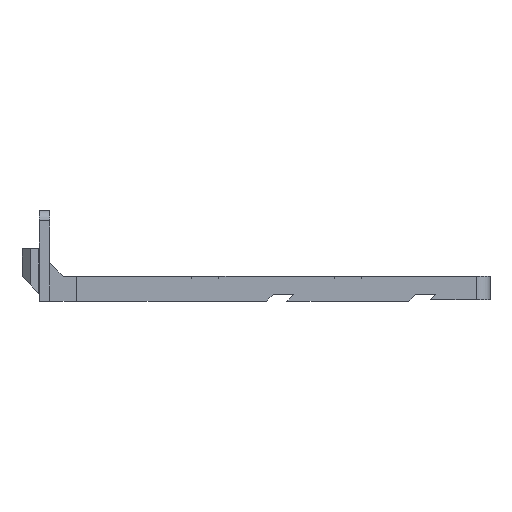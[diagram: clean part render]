
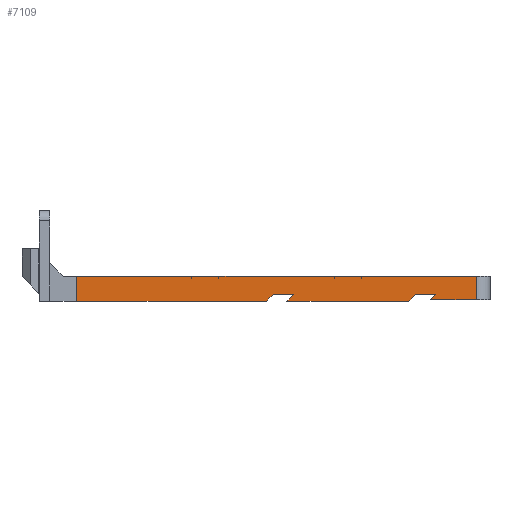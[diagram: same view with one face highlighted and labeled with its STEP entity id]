
A CAD part, front view. The second image highlights one B-rep face of the part: STEP entity #7109.
In plain terms, the highlighted planar face has unit normal (0, -1, 0).
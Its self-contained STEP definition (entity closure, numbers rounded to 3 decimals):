
#309=PLANE('',#7822);
#747=FACE_OUTER_BOUND('',#1203,.T.);
#1203=EDGE_LOOP('',(#6202,#6203,#6204,#6205,#6206,#6207,#6208,#6209,#6210,
#6211,#6212,#6213,#6214,#6215,#6216,#6217,#6218,#6219,#6220,#6221));
#1282=LINE('',#10149,#2014);
#1287=LINE('',#10166,#2019);
#1291=LINE('',#10173,#2023);
#1294=LINE('',#10179,#2026);
#1297=LINE('',#10189,#2029);
#1298=LINE('',#10194,#2030);
#1300=LINE('',#10203,#2032);
#1449=LINE('',#10633,#2181);
#1459=LINE('',#10656,#2191);
#1496=LINE('',#10742,#2228);
#1499=LINE('',#10747,#2231);
#1501=LINE('',#10751,#2233);
#1502=LINE('',#10753,#2234);
#1503=LINE('',#10759,#2235);
#1645=LINE('',#11180,#2377);
#1707=LINE('',#11339,#2439);
#1711=LINE('',#11358,#2443);
#1848=LINE('',#11760,#2580);
#1858=LINE('',#11780,#2590);
#1859=LINE('',#11782,#2591);
#2014=VECTOR('',#7944,10.);
#2019=VECTOR('',#7957,10.);
#2023=VECTOR('',#7963,10.);
#2026=VECTOR('',#7968,10.);
#2029=VECTOR('',#7977,10.);
#2030=VECTOR('',#7982,10.);
#2032=VECTOR('',#7994,10.);
#2181=VECTOR('',#8465,10.);
#2191=VECTOR('',#8489,10.);
#2228=VECTOR('',#8580,10.);
#2231=VECTOR('',#8585,10.);
#2233=VECTOR('',#8589,10.);
#2234=VECTOR('',#8592,10.);
#2235=VECTOR('',#8597,10.);
#2377=VECTOR('',#9071,10.);
#2439=VECTOR('',#9247,10.);
#2443=VECTOR('',#9273,10.);
#2580=VECTOR('',#9732,10.);
#2590=VECTOR('',#9762,10.);
#2591=VECTOR('',#9765,10.);
#3023=VERTEX_POINT('',#10142);
#3026=VERTEX_POINT('',#10147);
#3033=VERTEX_POINT('',#10163);
#3034=VERTEX_POINT('',#10165);
#3036=VERTEX_POINT('',#10171);
#3038=VERTEX_POINT('',#10177);
#3042=VERTEX_POINT('',#10187);
#3043=VERTEX_POINT('',#10191);
#3044=VERTEX_POINT('',#10193);
#3166=VERTEX_POINT('',#10631);
#3193=VERTEX_POINT('',#10739);
#3194=VERTEX_POINT('',#10741);
#3195=VERTEX_POINT('',#10745);
#3196=VERTEX_POINT('',#10749);
#3198=VERTEX_POINT('',#10756);
#3199=VERTEX_POINT('',#10758);
#3347=VERTEX_POINT('',#11321);
#3352=VERTEX_POINT('',#11337);
#3356=VERTEX_POINT('',#11356);
#3460=VERTEX_POINT('',#11758);
#3586=EDGE_CURVE('',#3026,#3023,#1282,.T.);
#3593=EDGE_CURVE('',#3034,#3033,#1287,.T.);
#3597=EDGE_CURVE('',#3033,#3036,#1291,.T.);
#3600=EDGE_CURVE('',#3036,#3038,#1294,.T.);
#3605=EDGE_CURVE('',#3042,#3038,#1297,.T.);
#3607=EDGE_CURVE('',#3044,#3043,#1298,.T.);
#3612=EDGE_CURVE('',#3023,#3043,#1300,.T.);
#3827=EDGE_CURVE('',#3166,#3042,#1449,.T.);
#3839=EDGE_CURVE('',#3166,#3044,#1459,.F.);
#3882=EDGE_CURVE('',#3194,#3193,#1496,.T.);
#3885=EDGE_CURVE('',#3193,#3195,#1499,.T.);
#3887=EDGE_CURVE('',#3195,#3196,#1501,.T.);
#3888=EDGE_CURVE('',#3034,#3196,#1502,.T.);
#3890=EDGE_CURVE('',#3199,#3198,#1503,.T.);
#4101=EDGE_CURVE('',#3026,#3199,#1645,.F.);
#4181=EDGE_CURVE('',#3347,#3352,#1707,.F.);
#4191=EDGE_CURVE('',#3352,#3356,#1711,.T.);
#4392=EDGE_CURVE('',#3347,#3460,#1848,.T.);
#4402=EDGE_CURVE('',#3460,#3198,#1858,.T.);
#4403=EDGE_CURVE('',#3194,#3356,#1859,.T.);
#6202=ORIENTED_EDGE('',*,*,#4402,.F.);
#6203=ORIENTED_EDGE('',*,*,#4392,.F.);
#6204=ORIENTED_EDGE('',*,*,#4181,.T.);
#6205=ORIENTED_EDGE('',*,*,#4191,.T.);
#6206=ORIENTED_EDGE('',*,*,#4403,.F.);
#6207=ORIENTED_EDGE('',*,*,#3882,.T.);
#6208=ORIENTED_EDGE('',*,*,#3885,.T.);
#6209=ORIENTED_EDGE('',*,*,#3887,.T.);
#6210=ORIENTED_EDGE('',*,*,#3888,.F.);
#6211=ORIENTED_EDGE('',*,*,#3593,.T.);
#6212=ORIENTED_EDGE('',*,*,#3597,.T.);
#6213=ORIENTED_EDGE('',*,*,#3600,.T.);
#6214=ORIENTED_EDGE('',*,*,#3605,.F.);
#6215=ORIENTED_EDGE('',*,*,#3827,.F.);
#6216=ORIENTED_EDGE('',*,*,#3839,.T.);
#6217=ORIENTED_EDGE('',*,*,#3607,.T.);
#6218=ORIENTED_EDGE('',*,*,#3612,.F.);
#6219=ORIENTED_EDGE('',*,*,#3586,.F.);
#6220=ORIENTED_EDGE('',*,*,#4101,.T.);
#6221=ORIENTED_EDGE('',*,*,#3890,.T.);
#7109=ADVANCED_FACE('',(#747),#309,.T.);
#7822=AXIS2_PLACEMENT_3D('',#11781,#9763,#9764);
#7944=DIRECTION('',(0.,0.,-1.));
#7957=DIRECTION('',(0.707,0.,0.707));
#7963=DIRECTION('',(1.,0.,0.));
#7968=DIRECTION('',(-0.707,0.,-0.707));
#7977=DIRECTION('',(-1.,0.,0.));
#7982=DIRECTION('',(0.,0.,-1.));
#7994=DIRECTION('',(1.,0.,0.));
#8465=DIRECTION('',(0.,0.,-1.));
#8489=DIRECTION('',(1.,0.,0.));
#8580=DIRECTION('',(0.707,0.,0.707));
#8585=DIRECTION('',(1.,0.,0.));
#8589=DIRECTION('',(-0.707,0.,-0.707));
#8592=DIRECTION('',(-1.,0.,0.));
#8597=DIRECTION('',(0.,0.,-1.));
#9071=DIRECTION('',(1.,0.,0.));
#9247=DIRECTION('',(1.,0.,0.));
#9273=DIRECTION('',(0.,0.,-1.));
#9732=DIRECTION('',(0.,0.,-1.));
#9762=DIRECTION('',(1.,0.,0.));
#9763=DIRECTION('center_axis',(0.,-1.,0.));
#9764=DIRECTION('ref_axis',(1.,0.,0.));
#9765=DIRECTION('',(-1.,0.,0.));
#10142=CARTESIAN_POINT('',(183.15,-21.,-107.078));
#10147=CARTESIAN_POINT('',(183.15,-21.,-107.078));
#10149=CARTESIAN_POINT('',(183.15,-21.,-111.724));
#10163=CARTESIAN_POINT('',(207.172,-21.,-112.478));
#10165=CARTESIAN_POINT('',(205.172,-21.,-114.478));
#10166=CARTESIAN_POINT('',(191.055,-21.,-128.595));
#10171=CARTESIAN_POINT('',(213.172,-21.,-112.478));
#10173=CARTESIAN_POINT('',(176.361,-21.,-112.478));
#10177=CARTESIAN_POINT('',(211.572,-21.,-114.078));
#10179=CARTESIAN_POINT('',(196.555,-21.,-129.095));
#10187=CARTESIAN_POINT('',(225.15,-21.,-114.078));
#10189=CARTESIAN_POINT('',(225.15,-21.,-114.078));
#10191=CARTESIAN_POINT('',(191.15,-21.,-107.078));
#10193=CARTESIAN_POINT('',(191.15,-21.,-107.078));
#10194=CARTESIAN_POINT('',(191.15,-21.,-111.724));
#10203=CARTESIAN_POINT('',(205.572,-21.,-107.078));
#10631=CARTESIAN_POINT('',(225.15,-21.,-107.078));
#10633=CARTESIAN_POINT('',(225.15,-21.,-111.724));
#10656=CARTESIAN_POINT('',(206.15,-21.,-107.078));
#10739=CARTESIAN_POINT('',(165.172,-21.,-112.478));
#10741=CARTESIAN_POINT('',(163.172,-21.,-114.478));
#10742=CARTESIAN_POINT('',(149.055,-21.,-128.595));
#10745=CARTESIAN_POINT('',(171.172,-21.,-112.478));
#10747=CARTESIAN_POINT('',(134.361,-21.,-112.478));
#10749=CARTESIAN_POINT('',(169.172,-21.,-114.478));
#10751=CARTESIAN_POINT('',(154.555,-21.,-129.095));
#10753=CARTESIAN_POINT('',(225.15,-21.,-114.478));
#10756=CARTESIAN_POINT('',(149.15,-21.,-107.078));
#10758=CARTESIAN_POINT('',(149.15,-21.,-107.078));
#10759=CARTESIAN_POINT('',(149.15,-21.,-111.724));
#11180=CARTESIAN_POINT('',(164.15,-21.,-107.078));
#11321=CARTESIAN_POINT('',(141.15,-21.,-107.078));
#11337=CARTESIAN_POINT('',(107.15,-21.,-107.078));
#11339=CARTESIAN_POINT('',(122.15,-21.,-107.078));
#11356=CARTESIAN_POINT('',(107.15,-21.,-114.478));
#11358=CARTESIAN_POINT('',(107.15,-21.,-111.724));
#11758=CARTESIAN_POINT('',(141.15,-21.,-107.078));
#11760=CARTESIAN_POINT('',(141.15,-21.,-111.724));
#11780=CARTESIAN_POINT('',(183.15,-21.,-107.078));
#11781=CARTESIAN_POINT('Origin',(103.15,-21.,-111.724));
#11782=CARTESIAN_POINT('',(183.15,-21.,-114.478));
